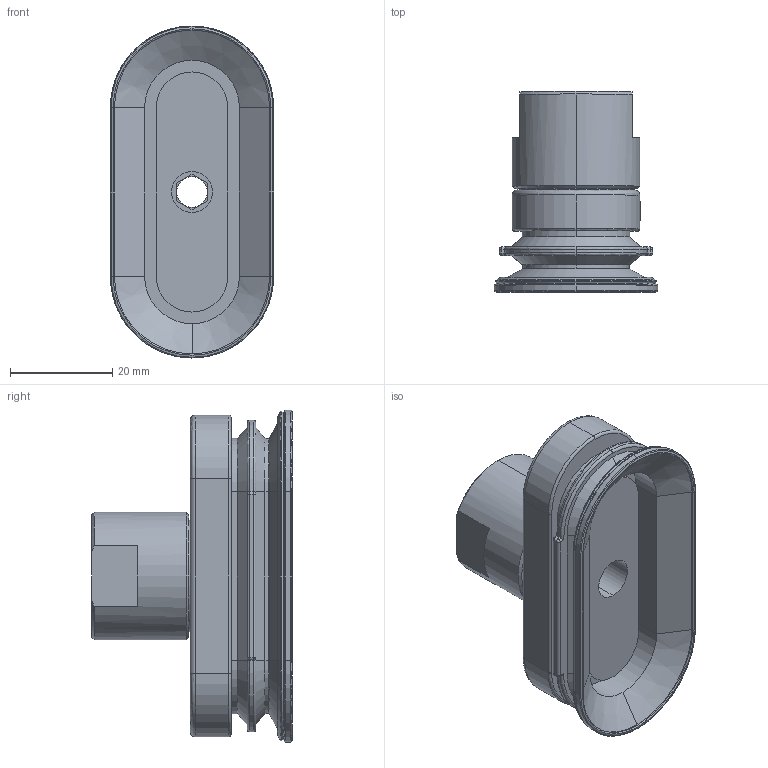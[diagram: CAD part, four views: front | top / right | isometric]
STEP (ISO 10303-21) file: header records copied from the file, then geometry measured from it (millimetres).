
FILE_DESCRIPTION (( 'STEP AP214' ), '1' );
FILE_NAME ('SAOB-60x30-G3-8IG.STEP', '2023-03-07T06:13:09', ( 'Windows User' ), ( 'P R C' ), 'SwSTEP 2.0', 'SolidWorks 2019', '' );
FILE_SCHEMA (( 'AUTOMOTIVE_DESIGN' ));
Length unit declared in the file: millimetre
Products named in the file (1): SAOB-60x30-G3-8IG
Bounding box: 32 x 39.3 x 65 mm (x, y, z)
Volume: 25851.9 mm3; surface area: 12974.3 mm2
Topology: 2 solids, 2 shells, 267 faces, 613 edges, 361 vertices
Faces by surface type: plane 99, cylinder 71, bspline 62, cone 35
Entity records: 12951 total; most frequent: CARTESIAN_POINT 4167, ORIENTED_EDGE 1218, DIRECTION 1193, EDGE_CURVE 609, AXIS2_PLACEMENT_3D 436, VERTEX_POINT 361, VECTOR 321, LINE 321
